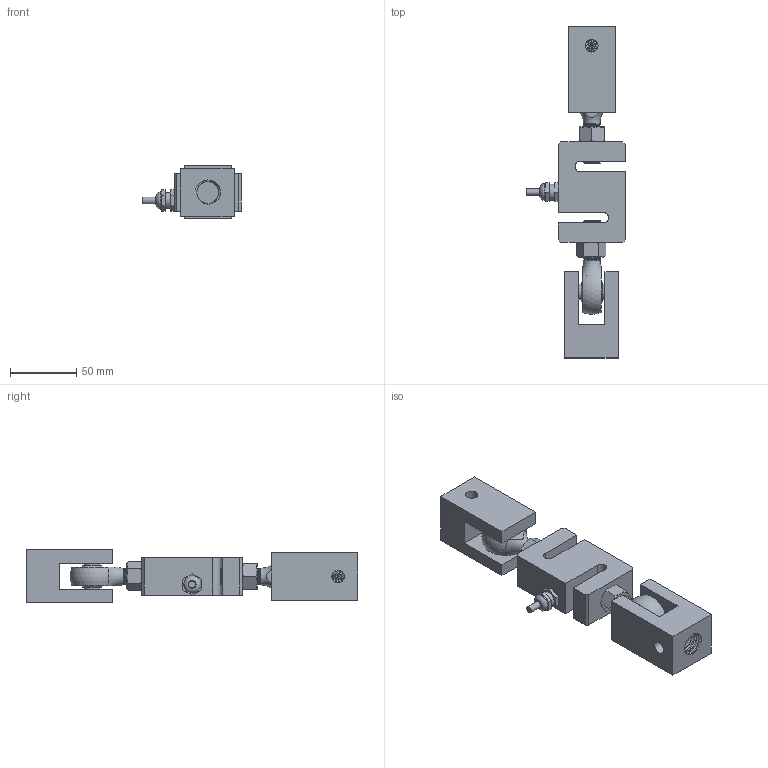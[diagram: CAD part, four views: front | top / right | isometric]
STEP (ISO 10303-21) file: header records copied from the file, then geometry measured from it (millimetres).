
FILE_DESCRIPTION(/* description */ (''),/* implementation_level */ '2;1');
FILE_NAME(/* name */ 'C:/Users/fardi/Dropbox/Work/Anyload/Load Cell Models/Product Catalog 3D/Weight Modules/101/101NHM2/101NHM2-(0.5-2)klb v6.step',/* time_stamp */ '2020-05-13T10:22:42-07:00',/* author */ (''),/* organization */ (''),/* preprocessor_version */ 'ST-DEVELOPER v18.1',/* originating_system */ 'Autodesk Translation Framework v9.3.0.1241',/* authorisation */ '');
FILE_SCHEMA (('AUTOMOTIVE_DESIGN { 1 0 10303 214 3 1 1 }'));
Products named in the file (9): 101NHM2-(0.5-2)klb; 101NH-(750-3000)lb; Connector v1; Eye Bolt v2; 95462A525; End Block; Eye Bolt v2(Mirror); End Block(Mirror) (1); 95462A525(Mirror)
Assembly tree (8 placements, depth 3):
  101NHM2-(0.5-2)klb
    101NH-(750-3000)lb
      Connector v1
    Eye Bolt v2
    95462A525
    End Block
    Eye Bolt v2(Mirror)
    End Block(Mirror) (1)
    95462A525(Mirror)
Bounding box: 74.73 x 251.38 x 40.8 mm (x, y, z)
Volume: 236472.1 mm3; surface area: 72918.3 mm2
Topology: 8 solids, 10 shells, 400 faces, 1106 edges, 725 vertices
Faces by surface type: cylinder 241, plane 102, cone 32, bspline 17, sphere 6, torus 2
Full cylindrical faces by diameter (mm): 5.1 x1, 9.525 x2, 10 x1, 11.05 x14, 11.189 x46, 11.468 x20, 12 x7, 12.598 x46, 12.7 x38, 13 x1, 16.573 x12, 19.05 x8, 26.6 x1, 27.2 x2, 29.4 x2
Entity records: 36942 total; most frequent: CARTESIAN_POINT 27589, ORIENTED_EDGE 2212, DIRECTION 1466, EDGE_CURVE 1106, VERTEX_POINT 725, AXIS2_PLACEMENT_3D 549, B_SPLINE_CURVE_WITH_KNOTS 507, EDGE_LOOP 435
